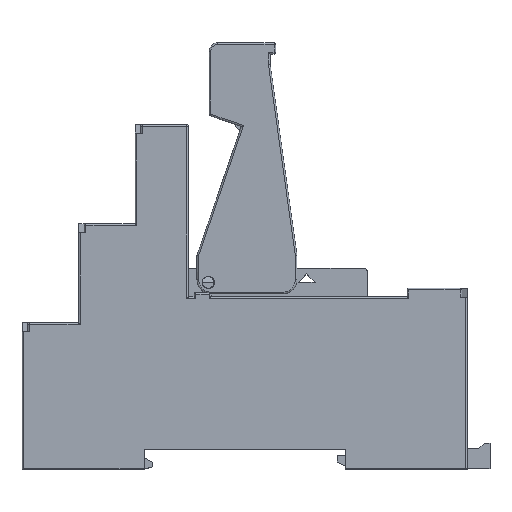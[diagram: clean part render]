
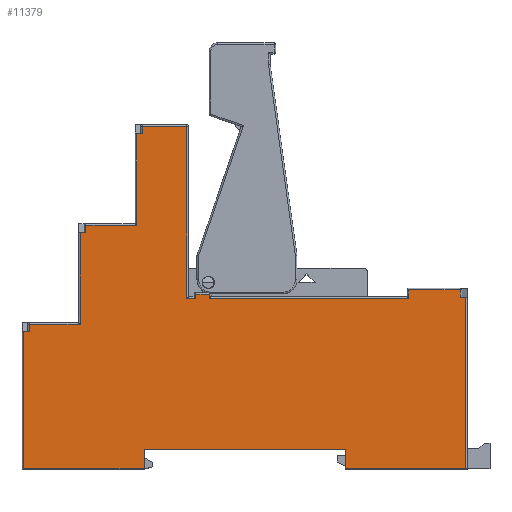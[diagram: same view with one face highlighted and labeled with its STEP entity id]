
A CAD part, top view. The second image highlights one B-rep face of the part: STEP entity #11379.
In plain terms, the highlighted planar face has unit normal (0, 0, 1).
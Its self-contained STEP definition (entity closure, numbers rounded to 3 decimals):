
#929=FACE_OUTER_BOUND('',#1602,.T.);
#1602=EDGE_LOOP('',(#9340,#9341,#9342,#9343,#9344,#9345,#9346,#9347,#9348,
#9349,#9350,#9351,#9352,#9353,#9354,#9355,#9356,#9357,#9358,#9359,#9360,
#9361,#9362,#9363,#9364,#9365,#9366,#9367));
#2153=LINE('',#16251,#3537);
#2236=LINE('',#16418,#3620);
#2240=LINE('',#16427,#3624);
#2246=LINE('',#16442,#3630);
#2248=LINE('',#16448,#3632);
#2252=LINE('',#16458,#3636);
#2265=LINE('',#16484,#3649);
#2277=LINE('',#16506,#3661);
#2281=LINE('',#16517,#3665);
#2282=LINE('',#16521,#3666);
#2284=LINE('',#16528,#3668);
#2292=LINE('',#16552,#3676);
#2293=LINE('',#16556,#3677);
#2295=LINE('',#16563,#3679);
#2307=LINE('',#16591,#3691);
#2311=LINE('',#16602,#3695);
#2312=LINE('',#16607,#3696);
#2314=LINE('',#16616,#3698);
#2316=LINE('',#16626,#3700);
#2318=LINE('',#16632,#3702);
#2320=LINE('',#16638,#3704);
#2322=LINE('',#16644,#3706);
#2324=LINE('',#16649,#3708);
#2326=LINE('',#16653,#3710);
#2329=LINE('',#16662,#3713);
#2330=LINE('',#16668,#3714);
#2509=LINE('',#17113,#3893);
#2748=LINE('',#17652,#4132);
#3537=VECTOR('',#13004,21.3);
#3620=VECTOR('',#13137,3.5);
#3624=VECTOR('',#13147,21.298);
#3630=VECTOR('',#13161,3.5);
#3632=VECTOR('',#13167,30.4);
#3636=VECTOR('',#13175,1.);
#3649=VECTOR('',#13194,24.3);
#3661=VECTOR('',#13210,1.);
#3665=VECTOR('',#13220,1.3);
#3666=VECTOR('',#13225,9.);
#3668=VECTOR('',#13233,16.2);
#3676=VECTOR('',#13257,1.3);
#3677=VECTOR('',#13262,9.);
#3679=VECTOR('',#13270,16.196);
#3691=VECTOR('',#13296,1.);
#3695=VECTOR('',#13306,1.3);
#3696=VECTOR('',#13311,7.85);
#3698=VECTOR('',#13321,35.3);
#3700=VECTOR('',#13331,30.396);
#3702=VECTOR('',#13337,1.6);
#3704=VECTOR('',#13343,0.7);
#3706=VECTOR('',#13349,2.4);
#3708=VECTOR('',#13355,0.7);
#3710=VECTOR('',#13359,1.5);
#3713=VECTOR('',#13368,9.048);
#3714=VECTOR('',#13377,1.3);
#3893=VECTOR('',#13814,35.6);
#4132=VECTOR('',#14357,1.);
#4851=VERTEX_POINT('',#16248);
#4852=VERTEX_POINT('',#16250);
#4911=VERTEX_POINT('',#16417);
#4912=VERTEX_POINT('',#16424);
#4913=VERTEX_POINT('',#16426);
#4918=VERTEX_POINT('',#16440);
#4920=VERTEX_POINT('',#16446);
#4924=VERTEX_POINT('',#16456);
#4933=VERTEX_POINT('',#16480);
#4942=VERTEX_POINT('',#16505);
#4945=VERTEX_POINT('',#16513);
#4947=VERTEX_POINT('',#16520);
#4948=VERTEX_POINT('',#16524);
#4954=VERTEX_POINT('',#16545);
#4957=VERTEX_POINT('',#16550);
#4958=VERTEX_POINT('',#16555);
#4959=VERTEX_POINT('',#16559);
#4969=VERTEX_POINT('',#16590);
#4972=VERTEX_POINT('',#16598);
#4975=VERTEX_POINT('',#16606);
#4977=VERTEX_POINT('',#16614);
#4978=VERTEX_POINT('',#16615);
#4982=VERTEX_POINT('',#16625);
#4984=VERTEX_POINT('',#16631);
#4986=VERTEX_POINT('',#16637);
#4988=VERTEX_POINT('',#16643);
#4990=VERTEX_POINT('',#16652);
#4992=VERTEX_POINT('',#16658);
#5976=EDGE_CURVE('',#4851,#4852,#2153,.T.);
#6061=EDGE_CURVE('',#4852,#4911,#2236,.T.);
#6065=EDGE_CURVE('',#4912,#4913,#2240,.T.);
#6073=EDGE_CURVE('',#4918,#4912,#2246,.T.);
#6076=EDGE_CURVE('',#4920,#4851,#2248,.T.);
#6081=EDGE_CURVE('',#4924,#4920,#2252,.T.);
#6095=EDGE_CURVE('',#4913,#4933,#2265,.T.);
#6107=EDGE_CURVE('',#4933,#4942,#2277,.T.);
#6113=EDGE_CURVE('',#4942,#4945,#2281,.T.);
#6115=EDGE_CURVE('',#4945,#4947,#2282,.T.);
#6119=EDGE_CURVE('',#4947,#4948,#2284,.T.);
#6131=EDGE_CURVE('',#4957,#4954,#2292,.T.);
#6133=EDGE_CURVE('',#4954,#4958,#2293,.T.);
#6137=EDGE_CURVE('',#4958,#4959,#2295,.T.);
#6151=EDGE_CURVE('',#4959,#4969,#2307,.T.);
#6157=EDGE_CURVE('',#4969,#4972,#2311,.T.);
#6159=EDGE_CURVE('',#4972,#4975,#2312,.T.);
#6163=EDGE_CURVE('',#4977,#4978,#2314,.T.);
#6168=EDGE_CURVE('',#4975,#4982,#2316,.T.);
#6171=EDGE_CURVE('',#4982,#4984,#2318,.T.);
#6174=EDGE_CURVE('',#4984,#4986,#2320,.T.);
#6177=EDGE_CURVE('',#4986,#4988,#2322,.T.);
#6180=EDGE_CURVE('',#4988,#4977,#2324,.T.);
#6182=EDGE_CURVE('',#4978,#4990,#2326,.T.);
#6187=EDGE_CURVE('',#4990,#4992,#2329,.T.);
#6190=EDGE_CURVE('',#4992,#4924,#2330,.T.);
#6415=EDGE_CURVE('',#4911,#4918,#2509,.T.);
#6671=EDGE_CURVE('',#4948,#4957,#2748,.T.);
#9340=ORIENTED_EDGE('',*,*,#6076,.F.);
#9341=ORIENTED_EDGE('',*,*,#6081,.F.);
#9342=ORIENTED_EDGE('',*,*,#6190,.F.);
#9343=ORIENTED_EDGE('',*,*,#6187,.F.);
#9344=ORIENTED_EDGE('',*,*,#6182,.F.);
#9345=ORIENTED_EDGE('',*,*,#6163,.F.);
#9346=ORIENTED_EDGE('',*,*,#6180,.F.);
#9347=ORIENTED_EDGE('',*,*,#6177,.F.);
#9348=ORIENTED_EDGE('',*,*,#6174,.F.);
#9349=ORIENTED_EDGE('',*,*,#6171,.F.);
#9350=ORIENTED_EDGE('',*,*,#6168,.F.);
#9351=ORIENTED_EDGE('',*,*,#6159,.F.);
#9352=ORIENTED_EDGE('',*,*,#6157,.F.);
#9353=ORIENTED_EDGE('',*,*,#6151,.F.);
#9354=ORIENTED_EDGE('',*,*,#6137,.F.);
#9355=ORIENTED_EDGE('',*,*,#6133,.F.);
#9356=ORIENTED_EDGE('',*,*,#6131,.F.);
#9357=ORIENTED_EDGE('',*,*,#6671,.F.);
#9358=ORIENTED_EDGE('',*,*,#6119,.F.);
#9359=ORIENTED_EDGE('',*,*,#6115,.F.);
#9360=ORIENTED_EDGE('',*,*,#6113,.F.);
#9361=ORIENTED_EDGE('',*,*,#6107,.F.);
#9362=ORIENTED_EDGE('',*,*,#6095,.F.);
#9363=ORIENTED_EDGE('',*,*,#6065,.F.);
#9364=ORIENTED_EDGE('',*,*,#6073,.F.);
#9365=ORIENTED_EDGE('',*,*,#6415,.F.);
#9366=ORIENTED_EDGE('',*,*,#6061,.F.);
#9367=ORIENTED_EDGE('',*,*,#5976,.F.);
#10810=PLANE('',#12130);
#11379=ADVANCED_FACE('',(#929),#10810,.T.);
#12130=AXIS2_PLACEMENT_3D('',#17735,#14463,#14464);
#13004=DIRECTION('',(-1.,0.,0.));
#13137=DIRECTION('',(0.,1.,0.));
#13147=DIRECTION('',(-1.,0.,0.));
#13161=DIRECTION('',(0.,-1.,0.));
#13167=DIRECTION('',(0.,-1.,0.));
#13175=DIRECTION('',(1.,0.,0.));
#13194=DIRECTION('',(0.,1.,0.));
#13210=DIRECTION('',(1.,0.,0.));
#13220=DIRECTION('',(0.,1.,0.));
#13225=DIRECTION('',(1.,0.,0.));
#13233=DIRECTION('',(0.,1.,0.));
#13257=DIRECTION('',(0.,1.,0.));
#13262=DIRECTION('',(1.,0.,0.));
#13270=DIRECTION('',(0.,1.,0.));
#13296=DIRECTION('',(1.,0.,0.));
#13306=DIRECTION('',(0.,1.,0.));
#13311=DIRECTION('',(1.,0.,0.));
#13321=DIRECTION('',(1.,0.,0.));
#13331=DIRECTION('',(0.,-1.,0.));
#13337=DIRECTION('',(1.,0.,0.));
#13343=DIRECTION('',(0.,1.,0.));
#13349=DIRECTION('',(1.,0.,0.));
#13355=DIRECTION('',(0.,-1.,0.));
#13359=DIRECTION('',(0.,1.,0.));
#13368=DIRECTION('',(1.,0.,0.));
#13377=DIRECTION('',(0.,-1.,0.));
#13814=DIRECTION('',(-1.,0.,0.));
#14357=DIRECTION('',(1.,0.,0.));
#14463=DIRECTION('center_axis',(0.,0.,1.));
#14464=DIRECTION('ref_axis',(1.,0.,0.));
#16248=CARTESIAN_POINT('',(102.381,6.591,7.9));
#16250=CARTESIAN_POINT('',(81.081,6.591,7.9));
#16251=CARTESIAN_POINT('',(81.081,6.591,7.9));
#16417=CARTESIAN_POINT('',(81.081,10.091,7.9));
#16418=CARTESIAN_POINT('',(81.081,10.091,7.9));
#16424=CARTESIAN_POINT('',(45.481,6.591,7.9));
#16426=CARTESIAN_POINT('',(24.183,6.591,7.9));
#16427=CARTESIAN_POINT('',(23.883,6.591,7.9));
#16440=CARTESIAN_POINT('',(45.481,10.091,7.9));
#16442=CARTESIAN_POINT('',(45.481,6.591,7.9));
#16446=CARTESIAN_POINT('',(102.381,36.991,7.9));
#16448=CARTESIAN_POINT('',(102.381,34.181,7.9));
#16456=CARTESIAN_POINT('',(101.381,36.991,7.9));
#16458=CARTESIAN_POINT('',(102.681,36.991,7.9));
#16480=CARTESIAN_POINT('',(24.183,30.891,7.9));
#16484=CARTESIAN_POINT('',(24.183,18.181,7.9));
#16505=CARTESIAN_POINT('',(25.183,30.891,7.9));
#16506=CARTESIAN_POINT('',(42.089,30.891,7.9));
#16513=CARTESIAN_POINT('',(25.183,32.191,7.9));
#16517=CARTESIAN_POINT('',(25.183,30.331,7.9));
#16520=CARTESIAN_POINT('',(34.183,32.191,7.9));
#16521=CARTESIAN_POINT('',(42.347,32.191,7.9));
#16524=CARTESIAN_POINT('',(34.183,48.391,7.9));
#16528=CARTESIAN_POINT('',(34.183,31.131,7.9));
#16545=CARTESIAN_POINT('',(35.183,49.691,7.9));
#16550=CARTESIAN_POINT('',(35.183,48.391,7.9));
#16552=CARTESIAN_POINT('',(35.183,39.081,7.9));
#16555=CARTESIAN_POINT('',(44.183,49.691,7.9));
#16556=CARTESIAN_POINT('',(47.739,49.691,7.9));
#16559=CARTESIAN_POINT('',(44.183,65.887,7.9));
#16563=CARTESIAN_POINT('',(44.183,39.881,7.9));
#16590=CARTESIAN_POINT('',(45.183,65.887,7.9));
#16591=CARTESIAN_POINT('',(52.089,65.887,7.9));
#16598=CARTESIAN_POINT('',(45.183,67.187,7.9));
#16602=CARTESIAN_POINT('',(45.183,47.829,7.9));
#16606=CARTESIAN_POINT('',(53.033,67.187,7.9));
#16607=CARTESIAN_POINT('',(52.739,67.187,7.9));
#16614=CARTESIAN_POINT('',(57.033,36.791,7.9));
#16615=CARTESIAN_POINT('',(92.333,36.791,7.9));
#16616=CARTESIAN_POINT('',(73.064,36.791,7.9));
#16625=CARTESIAN_POINT('',(53.033,36.791,7.9));
#16626=CARTESIAN_POINT('',(53.033,35.931,7.9));
#16631=CARTESIAN_POINT('',(54.633,36.791,7.9));
#16632=CARTESIAN_POINT('',(73.064,36.791,7.9));
#16637=CARTESIAN_POINT('',(54.633,37.491,7.9));
#16638=CARTESIAN_POINT('',(54.633,33.431,7.9));
#16643=CARTESIAN_POINT('',(57.033,37.491,7.9));
#16644=CARTESIAN_POINT('',(57.314,37.491,7.9));
#16649=CARTESIAN_POINT('',(57.033,33.781,7.9));
#16652=CARTESIAN_POINT('',(92.333,38.291,7.9));
#16653=CARTESIAN_POINT('',(92.333,33.431,7.9));
#16658=CARTESIAN_POINT('',(101.381,38.291,7.9));
#16662=CARTESIAN_POINT('',(76.164,38.291,7.9));
#16668=CARTESIAN_POINT('',(101.381,34.031,7.9));
#17113=CARTESIAN_POINT('',(45.481,10.091,7.9));
#17652=CARTESIAN_POINT('',(47.089,48.391,7.9));
#17735=CARTESIAN_POINT('Origin',(60.295,29.772,7.9));
